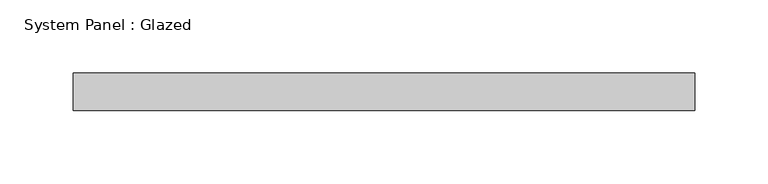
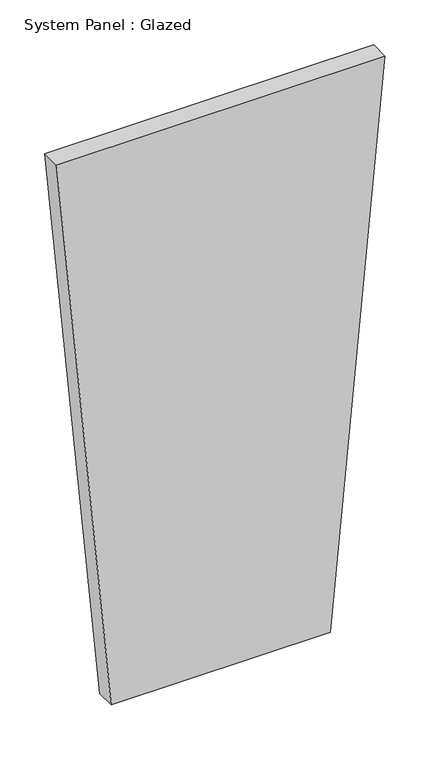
"""IFC4 building model written with IfcOpenShell, lengths in millimetres: plate geometry, System Panel : Glazed."""

from ifc_helpers import new_model, si_unit, frame, origin, place, context, project, spatial, polyline, outline, extrude, source, transform, mapped, element, save


def system_panel_glazed_be0217b8(model_context):
    return source(origin(), model_context, "Body", "SweptSolid", [
        extrude(outline(polyline([(0.0, -140.8938498), (0.0, 140.8938498), (758.7366017, 211.3407748), (758.7366017, -211.3407748), (0.0, -140.8938498)])), frame((0.0, -44.45, 0.0), z_axis=(0.0, 1.0, 0.0), x_axis=(0.0, 0.0, 1.0)), (0.0, 0.0, 1.0), 25.4),
    ])


if __name__ == "__main__":
    model = new_model("IFC4")
    model_context = context("Model", 3, world=origin())
    ifc_project = project(units=[si_unit("LENGTHUNIT", "METRE", prefix="MILLI")], contexts=[model_context])
    site = spatial("IfcSite", under=ifc_project)
    building = spatial("IfcBuilding", under=site)
    placement = place(None, origin())
    system_panel_glazed_shape = system_panel_glazed_be0217b8(model_context)
    element("IfcPlate", 1, ObjectType="System Panel : Glazed", at=placement, inside=building, context=model_context, shape_type="MappedRepresentation", body=[
        mapped(system_panel_glazed_shape, transform((0.0, 0.0, 0.0), x_axis=(1.0, 0.0, 0.0), y_axis=(0.0, 1.0, 0.0), z_axis=(0.0, 0.0, 1.0))),
    ])
    save(model, "model.ifc")
